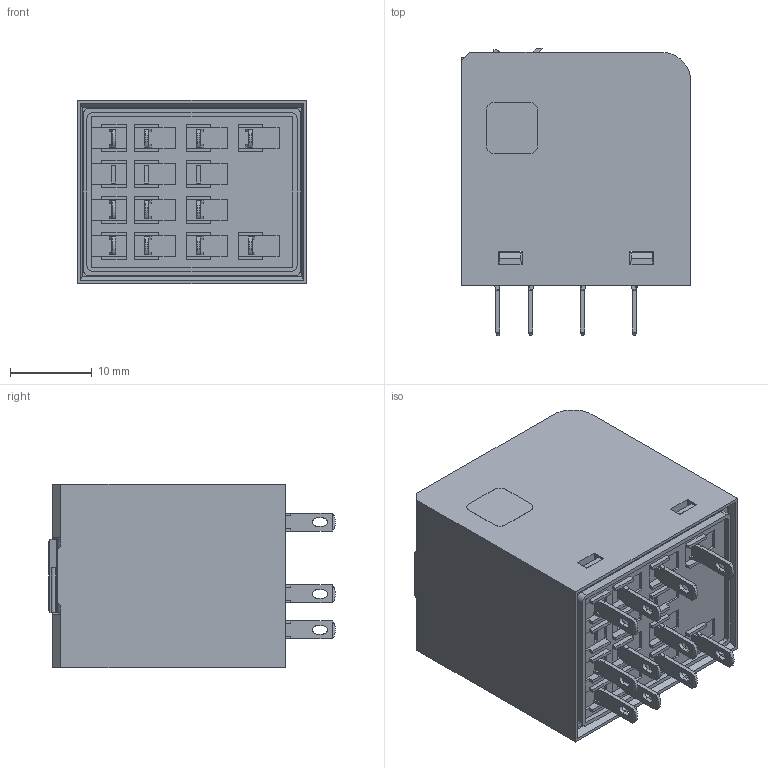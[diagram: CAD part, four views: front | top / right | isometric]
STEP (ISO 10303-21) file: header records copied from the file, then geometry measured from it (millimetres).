
FILE_DESCRIPTION(('STEP AP214'), '1');
FILE_NAME('Ðåëå ïðîìåæóòî÷íîå ÐÏ30-003 (íà ïîêàç)', '', ('UNSPECIFIED'), ('UNSPECIFIED'), 'ASCON STEP Converter 1.6', 'ASCON Math Kernel', '');
FILE_SCHEMA(('AUTOMOTIVE_DESIGN { 1 0 10303 214 3 1 1}'));
Length unit declared in the file: millimetre
Bounding box: 28 x 35.1 x 22.5 mm (x, y, z)
Volume: 4415.1 mm3; surface area: 9132.5 mm2
Topology: 8 solids, 8 shells, 822 faces, 2168 edges, 1372 vertices
Faces by surface type: plane 696, cylinder 125, cone 1
Full cylindrical faces by diameter (mm): 0.6 x2
Entity records: 31592 total; most frequent: CARTESIAN_POINT 4426, ORIENTED_EDGE 4330, DIRECTION 4063, EDGE_CURVE 2165, LINE 1869, VECTOR 1869, VERTEX_POINT 1372, AXIS2_PLACEMENT_3D 1097
